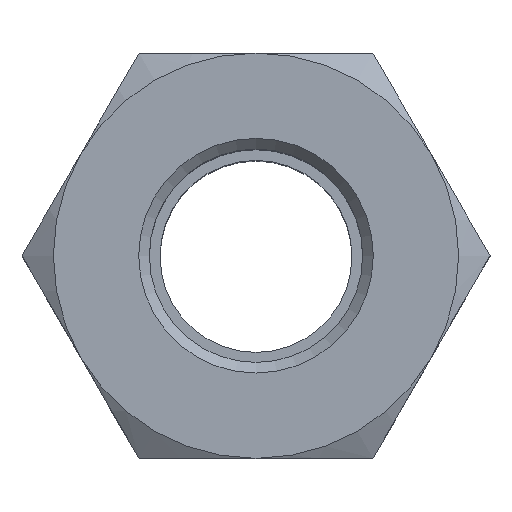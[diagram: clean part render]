
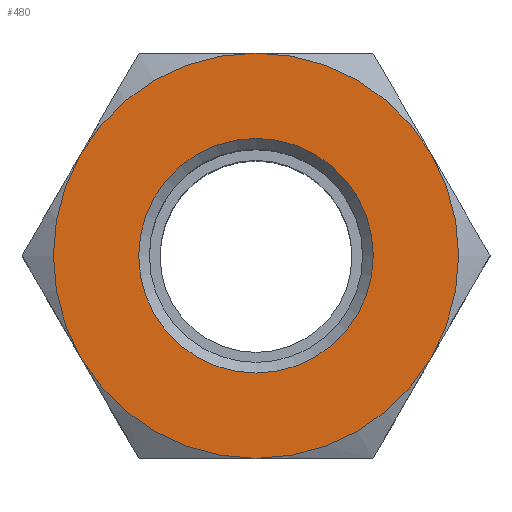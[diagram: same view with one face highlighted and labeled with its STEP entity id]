
A CAD part, top view. The second image highlights one B-rep face of the part: STEP entity #480.
In plain terms, the highlighted planar face has unit normal (0, 0, 1).
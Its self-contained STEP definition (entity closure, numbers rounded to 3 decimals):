
#480=ADVANCED_FACE('', (#490,#500), #510, .T.);
#3340=AXIS2_PLACEMENT_3D('Ax2Pl3d', #3350, #3360, #3370);
#3380=AXIS2_PLACEMENT_3D('Ax2Pl3d', #3390, #3400, #3410);
#3420=AXIS2_PLACEMENT_3D('Ax2Pl3d', #3430, #3440, #3450);
#3460=AXIS2_PLACEMENT_3D('Ax2Pl3d', #3470, #3480, #3490);
#3500=AXIS2_PLACEMENT_3D('Ax2Pl3d', #3510, #3520, #3530);
#3540=AXIS2_PLACEMENT_3D('Ax2Pl3d', #3550, #3560, #3570);
#3580=AXIS2_PLACEMENT_3D('Ax2Pl3d', #3590, #3600, #3610);
#3620=AXIS2_PLACEMENT_3D('Ax2Pl3d', #3630, #3640, #3650);
#9220=CARTESIAN_POINT('', (0.352,10.354,43.749))
;
#9290=CARTESIAN_POINT('', (8.579,15.104,43.749));
#9340=CARTESIAN_POINT('', (16.806,10.354,43.749));
#9410=CARTESIAN_POINT('', (16.806,0.854,43.749));
#9450=CARTESIAN_POINT('', (8.579,-3.896,43.749));
#9490=CARTESIAN_POINT('', (0.352,0.854,43.749))
;
#3350=CARTESIAN_POINT('HicPkt', (18.079,5.604,
43.749));
#3390=CARTESIAN_POINT('HicPkt', (8.579,5.604,
43.749));
#3430=CARTESIAN_POINT('HicPkt', (8.579,5.604,
43.749));
#3470=CARTESIAN_POINT('HicPkt', (8.579,5.604,
43.749));
#3510=CARTESIAN_POINT('HicPkt', (8.579,5.604,
43.749));
#3550=CARTESIAN_POINT('HicPkt', (8.579,5.604,
43.749));
#3590=CARTESIAN_POINT('HicPkt', (8.579,5.604,
43.749));
#3630=CARTESIAN_POINT('HicPkt', (8.579,5.604,
43.749));
#9530=CARTESIAN_POINT('', (8.579,11.104,43.749));
#10150=CIRCLE('Circle', #3380, 9.5);
#10160=CIRCLE('Circle', #3420, 9.5);
#10170=CIRCLE('Circle', #3460, 9.5);
#10180=CIRCLE('Circle', #3500, 9.5);
#10190=CIRCLE('Circle', #3540, 9.5);
#10200=CIRCLE('Circle', #3580, 9.5);
#10210=CIRCLE('Circle', #3620, 5.5);
#3360=DIRECTION('Axis', (0.,0.,1.));
#3370=DIRECTION('RefDirection', (1.,0.,-0.));
#3400=DIRECTION('Axis', (0.,0.,1.));
#3410=DIRECTION('RefDirection', (1.,0.,-0.));
#3440=DIRECTION('Axis', (0.,0.,1.));
#3450=DIRECTION('RefDirection', (1.,0.,-0.));
#3480=DIRECTION('Axis', (0.,0.,1.));
#3490=DIRECTION('RefDirection', (1.,0.,-0.));
#3520=DIRECTION('Axis', (0.,0.,1.));
#3530=DIRECTION('RefDirection', (1.,0.,-0.));
#3560=DIRECTION('Axis', (0.,0.,1.));
#3570=DIRECTION('RefDirection', (1.,0.,-0.));
#3600=DIRECTION('Axis', (0.,0.,-1.));
#3610=DIRECTION('RefDirection', (-1.,-0.,0.));
#3640=DIRECTION('Axis', (0.,0.,-1.));
#3650=DIRECTION('RefDirection', (-1.,-0.,0.));
#14640=EDGE_CURVE('', #14190, #14090, #10150, .T.);
#14650=EDGE_CURVE('', #14090, #13960, #10160, .T.);
#14660=EDGE_CURVE('', #13960, #14490, #10170, .T.);
#14670=EDGE_CURVE('', #14490, #14410, #10180, .T.);
#14680=EDGE_CURVE('', #14410, #14330, #10190, .T.);
#14690=EDGE_CURVE('', #14190, #14330, #10200, .T.);
#14700=EDGE_CURVE('', #14710, #14710, #10210, .T.);
#16330=EDGE_LOOP('Edge_loop', (#16340,#16350,#16360,#16370,#16380,
#16390));
#16400=EDGE_LOOP('Edge_loop', (#16410));
#500=FACE_BOUND('', #16400, .T.);
#490=FACE_OUTER_BOUND('Face_outer_bound', #16330, .T.);
#16340=ORIENTED_EDGE('', *, *, #14640, .T.);
#16350=ORIENTED_EDGE('', *, *, #14650, .T.);
#16360=ORIENTED_EDGE('', *, *, #14660, .T.);
#16370=ORIENTED_EDGE('', *, *, #14670, .T.);
#16380=ORIENTED_EDGE('', *, *, #14680, .T.);
#16390=ORIENTED_EDGE('', *, *, #14690, .F.);
#16410=ORIENTED_EDGE('', *, *, #14700, .T.);
#510=PLANE('Plane', #3340);
#13960=VERTEX_POINT('', #9220);
#14090=VERTEX_POINT('', #9290);
#14190=VERTEX_POINT('', #9340);
#14330=VERTEX_POINT('', #9410);
#14410=VERTEX_POINT('', #9450);
#14490=VERTEX_POINT('', #9490);
#14710=VERTEX_POINT('', #9530);
